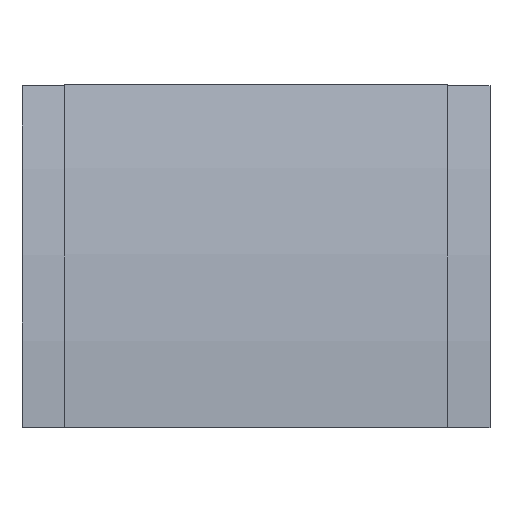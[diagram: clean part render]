
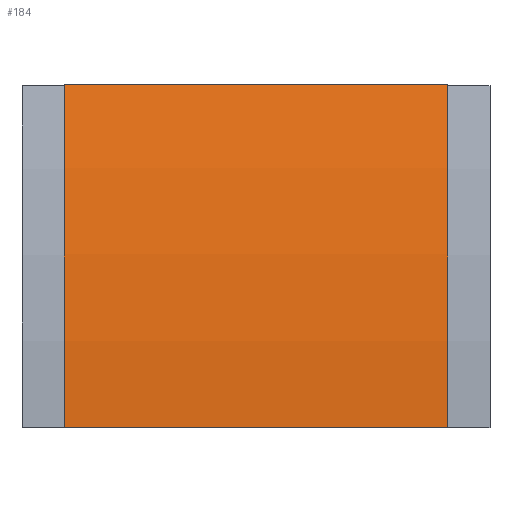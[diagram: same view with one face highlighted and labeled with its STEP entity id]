
A CAD part, front view. The second image highlights one B-rep face of the part: STEP entity #184.
In plain terms, the highlighted cylindrical face has radius 568 mm (diameter 1136 mm), a partial arc.
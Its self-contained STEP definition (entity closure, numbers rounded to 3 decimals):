
#11 = AXIS2_PLACEMENT_3D ( 'NONE', #559, #560, #561 ) ;
#12 = AXIS2_PLACEMENT_3D ( 'NONE', #566, #567, #568 ) ;
#184 = ADVANCED_FACE ( 'NONE', ( #730 ), #737, .T. ) ;
#207 = ORIENTED_EDGE ( 'NONE', *, *, #904, .F. ) ;
#208 = ORIENTED_EDGE ( 'NONE', *, *, #907, .T. ) ;
#210 = ORIENTED_EDGE ( 'NONE', *, *, #903, .F. ) ;
#214 = ORIENTED_EDGE ( 'NONE', *, *, #902, .T. ) ;
#228 = EDGE_LOOP ( 'NONE', ( #207, #210, #208, #214 ) ) ;
#432 = DIRECTION ( 'NONE',  ( 1., 0., 0. ) ) ;
#434 = DIRECTION ( 'NONE',  ( 0., 0., -1. ) ) ;
#437 = CARTESIAN_POINT ( 'NONE',  ( 0., 500., 0. ) ) ;
#487 = CARTESIAN_POINT ( 'NONE',  ( -95.25, -41.711, 170.801 ) ) ;
#498 = CARTESIAN_POINT ( 'NONE',  ( 95.25, -41.711, 170.801 ) ) ;
#513 = CARTESIAN_POINT ( 'NONE',  ( 95.25, -68., 0. ) ) ;
#514 = CARTESIAN_POINT ( 'NONE',  ( -95.25, -68., 0. ) ) ;
#544 = DIRECTION ( 'NONE',  ( 1., 0., 0. ) ) ;
#549 = CARTESIAN_POINT ( 'NONE',  ( -95.25, -41.711, 170.801 ) ) ;
#550 = CARTESIAN_POINT ( 'NONE',  ( -95.25, -68., 0. ) ) ;
#555 = DIRECTION ( 'NONE',  ( 1., 0., 0. ) ) ;
#559 = CARTESIAN_POINT ( 'NONE',  ( 95.25, 500., 0. ) ) ;
#560 = DIRECTION ( 'NONE',  ( 1., 0., 0. ) ) ;
#561 = DIRECTION ( 'NONE',  ( 0., 0., -1. ) ) ;
#566 = CARTESIAN_POINT ( 'NONE',  ( -95.25, 500., 0. ) ) ;
#567 = DIRECTION ( 'NONE',  ( 1., 0., 0. ) ) ;
#568 = DIRECTION ( 'NONE',  ( 0., 0., -1. ) ) ;
#663 = VERTEX_POINT ( 'NONE', #498 ) ;
#665 = VERTEX_POINT ( 'NONE', #487 ) ;
#677 = VERTEX_POINT ( 'NONE', #513 ) ;
#678 = VERTEX_POINT ( 'NONE', #514 ) ;
#730 = FACE_OUTER_BOUND ( 'NONE', #228, .T. ) ;
#737 = CYLINDRICAL_SURFACE ( 'NONE', #999, 568. ) ;
#755 = LINE ( 'NONE', #550, #764 ) ;
#761 = LINE ( 'NONE', #549, #765 ) ;
#763 = CIRCLE ( 'NONE', #11, 568. ) ;
#764 = VECTOR ( 'NONE', #544, 1000. ) ;
#765 = VECTOR ( 'NONE', #555, 1000. ) ;
#769 = CIRCLE ( 'NONE', #12, 568. ) ;
#902 = EDGE_CURVE ( 'NONE', #678, #677, #755, .T. ) ;
#903 = EDGE_CURVE ( 'NONE', #665, #663, #761, .T. ) ;
#904 = EDGE_CURVE ( 'NONE', #663, #677, #763, .T. ) ;
#907 = EDGE_CURVE ( 'NONE', #665, #678, #769, .T. ) ;
#999 = AXIS2_PLACEMENT_3D ( 'NONE', #437, #432, #434 ) ;
